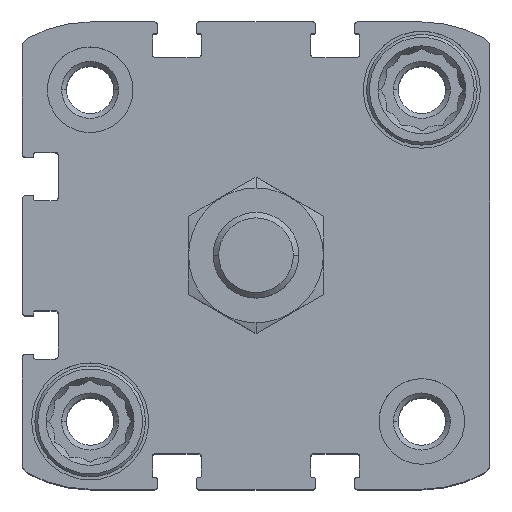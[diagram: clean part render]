
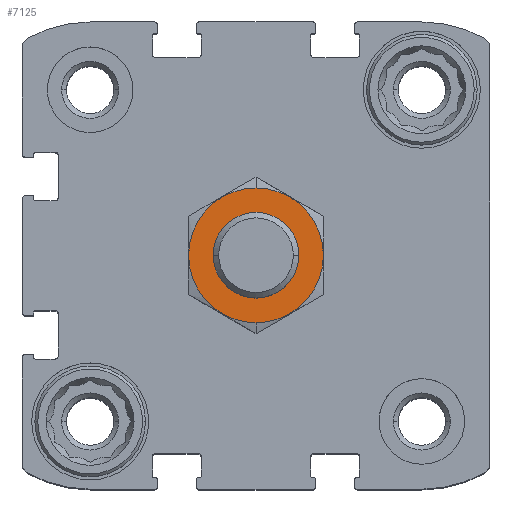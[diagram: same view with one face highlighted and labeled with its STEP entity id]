
A CAD part, top view. The second image highlights one B-rep face of the part: STEP entity #7125.
In plain terms, the highlighted planar face has unit normal (0, 0, 1).
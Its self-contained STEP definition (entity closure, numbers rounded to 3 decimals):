
#820 = FACE_BOUND ( 'NONE', #5926, .T. ) ;
#914 = PLANE ( 'NONE',  #13344 ) ;
#1069 = DIRECTION ( 'NONE',  ( 0., 0., -1. ) ) ;
#1096 = DIRECTION ( 'NONE',  ( 0., 0., -1. ) ) ;
#1952 = CARTESIAN_POINT ( 'NONE',  ( 0., 0., 19.5 ) ) ;
#2239 = EDGE_LOOP ( 'NONE', ( #14072, #14018 ) ) ;
#2369 = DIRECTION ( 'NONE',  ( 0., 1., 0. ) ) ;
#2533 = CARTESIAN_POINT ( 'NONE',  ( 0., 0., 19.5 ) ) ;
#2708 = AXIS2_PLACEMENT_3D ( 'NONE', #6815, #16126, #8221 ) ;
#2854 = VERTEX_POINT ( 'NONE', #13888 ) ;
#3018 = VERTEX_POINT ( 'NONE', #8922 ) ;
#3174 = EDGE_CURVE ( 'NONE', #6957, #2854, #15503, .T. ) ;
#3468 = EDGE_CURVE ( 'NONE', #2854, #6957, #16522, .T. ) ;
#3488 = CIRCLE ( 'NONE', #13208, 6. ) ;
#3955 = CARTESIAN_POINT ( 'NONE',  ( 0., 9.45, 19.5 ) ) ;
#3983 = ORIENTED_EDGE ( 'NONE', *, *, #9153, .T. ) ;
#4923 = DIRECTION ( 'NONE',  ( 0., 1., 0. ) ) ;
#5766 = EDGE_CURVE ( 'NONE', #3018, #13446, #3488, .T. ) ;
#5926 = EDGE_LOOP ( 'NONE', ( #13588, #3983 ) ) ;
#6815 = CARTESIAN_POINT ( 'NONE',  ( 0., 0., 19.5 ) ) ;
#6957 = VERTEX_POINT ( 'NONE', #3955 ) ;
#7125 = ADVANCED_FACE ( 'NONE', ( #16489, #820 ), #914, .F. ) ;
#8221 = DIRECTION ( 'NONE',  ( 0., 1., 0. ) ) ;
#8922 = CARTESIAN_POINT ( 'NONE',  ( 0., -6., 19.5 ) ) ;
#9070 = CARTESIAN_POINT ( 'NONE',  ( 0., 0., 19.5 ) ) ;
#9153 = EDGE_CURVE ( 'NONE', #13446, #3018, #14262, .T. ) ;
#9786 = DIRECTION ( 'NONE',  ( 0., 0., -1. ) ) ;
#11569 = AXIS2_PLACEMENT_3D ( 'NONE', #2533, #1069, #13163 ) ;
#13163 = DIRECTION ( 'NONE',  ( 0., 1., 0. ) ) ;
#13208 = AXIS2_PLACEMENT_3D ( 'NONE', #15721, #1096, #4923 ) ;
#13344 = AXIS2_PLACEMENT_3D ( 'NONE', #1952, #9786, #16749 ) ;
#13446 = VERTEX_POINT ( 'NONE', #16769 ) ;
#13588 = ORIENTED_EDGE ( 'NONE', *, *, #5766, .T. ) ;
#13888 = CARTESIAN_POINT ( 'NONE',  ( 0., -9.45, 19.5 ) ) ;
#14018 = ORIENTED_EDGE ( 'NONE', *, *, #3468, .F. ) ;
#14072 = ORIENTED_EDGE ( 'NONE', *, *, #3174, .F. ) ;
#14262 = CIRCLE ( 'NONE', #16194, 6. ) ;
#15428 = DIRECTION ( 'NONE',  ( 0., 0., -1. ) ) ;
#15503 = CIRCLE ( 'NONE', #2708, 9.45 ) ;
#15721 = CARTESIAN_POINT ( 'NONE',  ( 0., 0., 19.5 ) ) ;
#16126 = DIRECTION ( 'NONE',  ( 0., 0., -1. ) ) ;
#16194 = AXIS2_PLACEMENT_3D ( 'NONE', #9070, #15428, #2369 ) ;
#16489 = FACE_OUTER_BOUND ( 'NONE', #2239, .T. ) ;
#16522 = CIRCLE ( 'NONE', #11569, 9.45 ) ;
#16749 = DIRECTION ( 'NONE',  ( 0., 1., 0. ) ) ;
#16769 = CARTESIAN_POINT ( 'NONE',  ( 0., 6., 19.5 ) ) ;
